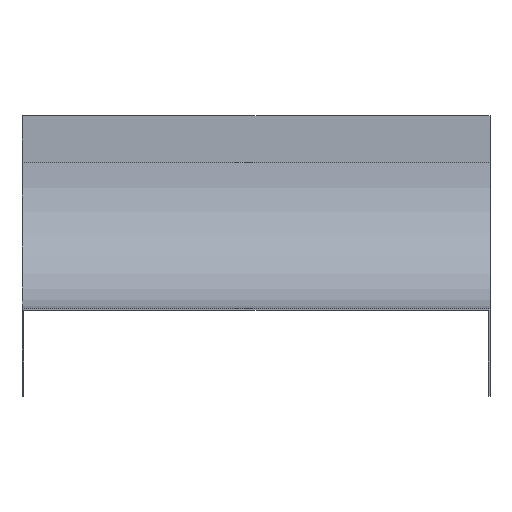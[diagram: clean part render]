
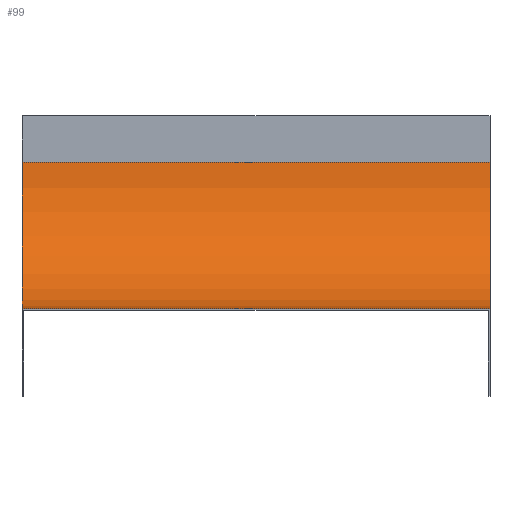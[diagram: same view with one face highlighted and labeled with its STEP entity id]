
A CAD part, front view. The second image highlights one B-rep face of the part: STEP entity #99.
In plain terms, the highlighted cylindrical face has radius 125 mm (diameter 250 mm), a partial arc.
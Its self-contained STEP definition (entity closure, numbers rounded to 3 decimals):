
#9 = VERTEX_POINT ( 'NONE', #23 ) ;
#23 = CARTESIAN_POINT ( 'NONE',  ( 200., -125., -165. ) ) ;
#39 = VECTOR ( 'NONE', #1040, 1000. ) ;
#84 = EDGE_CURVE ( 'NONE', #238, #9, #1502, .T. ) ;
#99 = ADVANCED_FACE ( 'NONE', ( #1625 ), #225, .F. ) ;
#142 = ORIENTED_EDGE ( 'NONE', *, *, #742, .F. ) ;
#157 = DIRECTION ( 'NONE',  ( 0., 0., 1. ) ) ;
#203 = DIRECTION ( 'NONE',  ( 0., 0., 1. ) ) ;
#212 = CARTESIAN_POINT ( 'NONE',  ( 200., -125., -40. ) ) ;
#225 = CYLINDRICAL_SURFACE ( 'NONE', #543, 125. ) ;
#238 = VERTEX_POINT ( 'NONE', #389 ) ;
#345 = CARTESIAN_POINT ( 'NONE',  ( 200., -125., -40. ) ) ;
#389 = CARTESIAN_POINT ( 'NONE',  ( 200., 0., -40. ) ) ;
#422 = CARTESIAN_POINT ( 'NONE',  ( 200., -125., -165. ) ) ;
#444 = CIRCLE ( 'NONE', #595, 125. ) ;
#458 = DIRECTION ( 'NONE',  ( -1., 0., 0. ) ) ;
#519 = AXIS2_PLACEMENT_3D ( 'NONE', #212, #1631, #203 ) ;
#538 = CARTESIAN_POINT ( 'NONE',  ( -200., -125., -40. ) ) ;
#543 = AXIS2_PLACEMENT_3D ( 'NONE', #345, #458, #734 ) ;
#562 = CARTESIAN_POINT ( 'NONE',  ( -200., -125., -165. ) ) ;
#595 = AXIS2_PLACEMENT_3D ( 'NONE', #538, #1563, #157 ) ;
#734 = DIRECTION ( 'NONE',  ( 0., 0., 1. ) ) ;
#742 = EDGE_CURVE ( 'NONE', #9, #1538, #1049, .T. ) ;
#922 = LINE ( 'NONE', #1182, #1045 ) ;
#928 = ORIENTED_EDGE ( 'NONE', *, *, #1381, .T. ) ;
#984 = ORIENTED_EDGE ( 'NONE', *, *, #84, .F. ) ;
#1040 = DIRECTION ( 'NONE',  ( -1., 0., 0. ) ) ;
#1045 = VECTOR ( 'NONE', #1063, 1000. ) ;
#1049 = LINE ( 'NONE', #422, #39 ) ;
#1063 = DIRECTION ( 'NONE',  ( -1., 0., 0. ) ) ;
#1082 = EDGE_LOOP ( 'NONE', ( #928, #142, #984, #1525 ) ) ;
#1182 = CARTESIAN_POINT ( 'NONE',  ( 200., 0., -40. ) ) ;
#1211 = VERTEX_POINT ( 'NONE', #1284 ) ;
#1284 = CARTESIAN_POINT ( 'NONE',  ( -200., 0., -40. ) ) ;
#1359 = EDGE_CURVE ( 'NONE', #238, #1211, #922, .T. ) ;
#1381 = EDGE_CURVE ( 'NONE', #1211, #1538, #444, .T. ) ;
#1502 = CIRCLE ( 'NONE', #519, 125. ) ;
#1525 = ORIENTED_EDGE ( 'NONE', *, *, #1359, .T. ) ;
#1538 = VERTEX_POINT ( 'NONE', #562 ) ;
#1563 = DIRECTION ( 'NONE',  ( -1., 0., 0. ) ) ;
#1625 = FACE_OUTER_BOUND ( 'NONE', #1082, .T. ) ;
#1631 = DIRECTION ( 'NONE',  ( -1., 0., 0. ) ) ;
